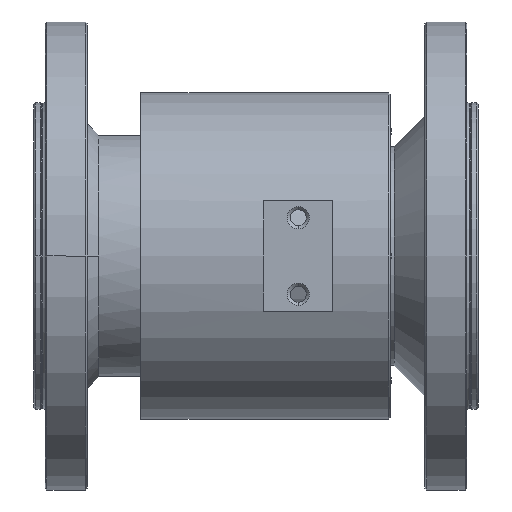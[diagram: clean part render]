
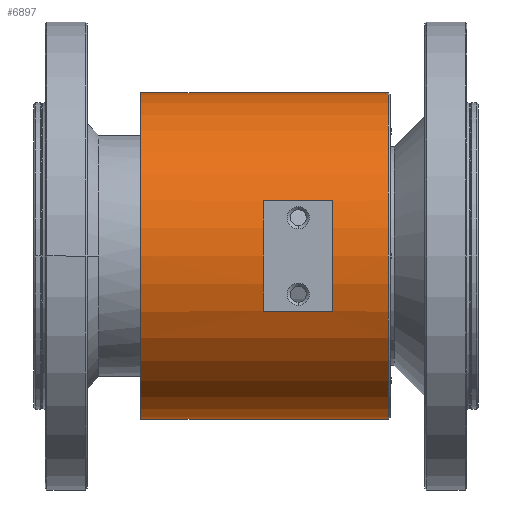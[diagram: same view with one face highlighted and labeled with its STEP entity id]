
A CAD part, front view. The second image highlights one B-rep face of the part: STEP entity #6897.
In plain terms, the highlighted cylindrical face has radius 42.5 mm (diameter 85 mm), a partial arc.
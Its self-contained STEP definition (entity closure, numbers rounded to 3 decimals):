
#347 = VERTEX_POINT ( 'NONE', #50436 ) ;
#1109 = VERTEX_POINT ( 'NONE', #6084 ) ;
#1215 = DIRECTION ( 'NONE',  ( 1., 0., 0. ) ) ;
#2859 = VERTEX_POINT ( 'NONE', #26437 ) ;
#4348 = DIRECTION ( 'NONE',  ( 0., 0., 1. ) ) ;
#5394 = EDGE_CURVE ( 'NONE', #48729, #47849, #11888, .T. ) ;
#6084 = CARTESIAN_POINT ( 'NONE',  ( -3.25, -40., 14.361 ) ) ;
#6146 = AXIS2_PLACEMENT_3D ( 'NONE', #40417, #14617, #44767 ) ;
#6897 = ADVANCED_FACE ( 'NONE', ( #20046, #53110 ), #47669, .T. ) ;
#8537 = CARTESIAN_POINT ( 'NONE',  ( 24.75, 0., -42.5 ) ) ;
#8965 = DIRECTION ( 'NONE',  ( -1., 0., 0. ) ) ;
#9507 = VECTOR ( 'NONE', #51169, 1000. ) ;
#10796 = EDGE_CURVE ( 'NONE', #1109, #17061, #14727, .T. ) ;
#11888 = CIRCLE ( 'NONE', #6146, 42.5 ) ;
#12360 = CARTESIAN_POINT ( 'NONE',  ( -35.25, 0., -42.5 ) ) ;
#12726 = CARTESIAN_POINT ( 'NONE',  ( 24.75, 0., 42.5 ) ) ;
#12823 = DIRECTION ( 'NONE',  ( -1., 0., 0. ) ) ;
#12863 = DIRECTION ( 'NONE',  ( -1., 0., 0. ) ) ;
#13533 = AXIS2_PLACEMENT_3D ( 'NONE', #34751, #8965, #39095 ) ;
#14617 = DIRECTION ( 'NONE',  ( -1., 0., 0. ) ) ;
#14727 = LINE ( 'NONE', #21485, #36278 ) ;
#15462 = EDGE_LOOP ( 'NONE', ( #16267, #50216, #53125, #31533 ) ) ;
#16153 = VERTEX_POINT ( 'NONE', #12360 ) ;
#16267 = ORIENTED_EDGE ( 'NONE', *, *, #32246, .T. ) ;
#16559 = AXIS2_PLACEMENT_3D ( 'NONE', #18987, #49168, #23341 ) ;
#17061 = VERTEX_POINT ( 'NONE', #33876 ) ;
#17831 = VECTOR ( 'NONE', #12863, 1000. ) ;
#18987 = CARTESIAN_POINT ( 'NONE',  ( -35.25, 0., 0. ) ) ;
#19828 = CIRCLE ( 'NONE', #36871, 42.5 ) ;
#20046 = FACE_OUTER_BOUND ( 'NONE', #25394, .T. ) ;
#21485 = CARTESIAN_POINT ( 'NONE',  ( 24.75, -40., 14.361 ) ) ;
#22303 = LINE ( 'NONE', #46802, #9507 ) ;
#23341 = DIRECTION ( 'NONE',  ( 0., 0., -1. ) ) ;
#25139 = EDGE_CURVE ( 'NONE', #47849, #2859, #42295, .T. ) ;
#25394 = EDGE_LOOP ( 'NONE', ( #50074, #35876, #48331, #37441 ) ) ;
#25803 = EDGE_CURVE ( 'NONE', #48729, #16153, #29308, .T. ) ;
#26234 = VERTEX_POINT ( 'NONE', #33749 ) ;
#26437 = CARTESIAN_POINT ( 'NONE',  ( -35.25, 0., 42.5 ) ) ;
#27023 = CARTESIAN_POINT ( 'NONE',  ( 14.75, 0., 0. ) ) ;
#28082 = CARTESIAN_POINT ( 'NONE',  ( 29.25, 0., -42.5 ) ) ;
#28387 = CARTESIAN_POINT ( 'NONE',  ( 29.25, 0., 42.5 ) ) ;
#28430 = CIRCLE ( 'NONE', #13533, 42.5 ) ;
#29308 = LINE ( 'NONE', #8537, #17831 ) ;
#29974 = DIRECTION ( 'NONE',  ( 1., 0., 0. ) ) ;
#30830 = VECTOR ( 'NONE', #38565, 1000. ) ;
#31352 = DIRECTION ( 'NONE',  ( 0., 0., -1. ) ) ;
#31533 = ORIENTED_EDGE ( 'NONE', *, *, #10796, .T. ) ;
#32246 = EDGE_CURVE ( 'NONE', #17061, #26234, #19828, .T. ) ;
#33749 = CARTESIAN_POINT ( 'NONE',  ( 14.75, -40., -14.361 ) ) ;
#33876 = CARTESIAN_POINT ( 'NONE',  ( 14.75, -40., 14.361 ) ) ;
#34751 = CARTESIAN_POINT ( 'NONE',  ( -3.25, 0., 0. ) ) ;
#35167 = AXIS2_PLACEMENT_3D ( 'NONE', #38633, #12823, #4348 ) ;
#35584 = EDGE_CURVE ( 'NONE', #2859, #16153, #37432, .T. ) ;
#35876 = ORIENTED_EDGE ( 'NONE', *, *, #5394, .T. ) ;
#36278 = VECTOR ( 'NONE', #29974, 1000. ) ;
#36871 = AXIS2_PLACEMENT_3D ( 'NONE', #27023, #1215, #31352 ) ;
#37432 = CIRCLE ( 'NONE', #16559, 42.5 ) ;
#37441 = ORIENTED_EDGE ( 'NONE', *, *, #35584, .T. ) ;
#38565 = DIRECTION ( 'NONE',  ( -1., 0., 0. ) ) ;
#38633 = CARTESIAN_POINT ( 'NONE',  ( 24.75, 0., 0. ) ) ;
#39095 = DIRECTION ( 'NONE',  ( 0., 0., 1. ) ) ;
#40417 = CARTESIAN_POINT ( 'NONE',  ( 29.25, 0., 0. ) ) ;
#42295 = LINE ( 'NONE', #12726, #30830 ) ;
#44767 = DIRECTION ( 'NONE',  ( 0., 0., -1. ) ) ;
#45607 = EDGE_CURVE ( 'NONE', #347, #1109, #28430, .T. ) ;
#46802 = CARTESIAN_POINT ( 'NONE',  ( 24.75, -40., -14.361 ) ) ;
#47669 = CYLINDRICAL_SURFACE ( 'NONE', #35167, 42.5 ) ;
#47849 = VERTEX_POINT ( 'NONE', #28387 ) ;
#48331 = ORIENTED_EDGE ( 'NONE', *, *, #25139, .T. ) ;
#48729 = VERTEX_POINT ( 'NONE', #28082 ) ;
#49168 = DIRECTION ( 'NONE',  ( 1., 0., 0. ) ) ;
#50074 = ORIENTED_EDGE ( 'NONE', *, *, #25803, .F. ) ;
#50216 = ORIENTED_EDGE ( 'NONE', *, *, #52397, .T. ) ;
#50436 = CARTESIAN_POINT ( 'NONE',  ( -3.25, -40., -14.361 ) ) ;
#51169 = DIRECTION ( 'NONE',  ( -1., 0., 0. ) ) ;
#52397 = EDGE_CURVE ( 'NONE', #26234, #347, #22303, .T. ) ;
#53110 = FACE_BOUND ( 'NONE', #15462, .T. ) ;
#53125 = ORIENTED_EDGE ( 'NONE', *, *, #45607, .T. ) ;
